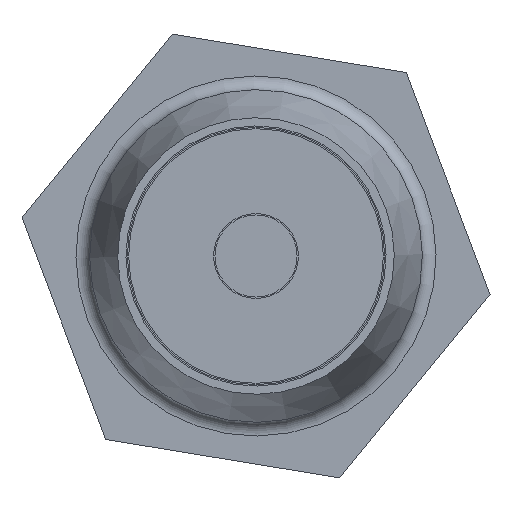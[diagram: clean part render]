
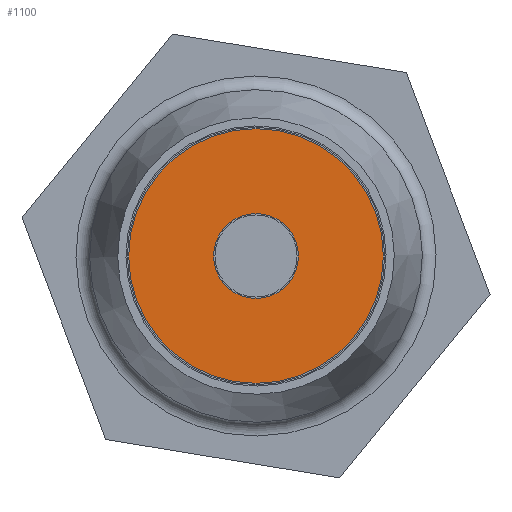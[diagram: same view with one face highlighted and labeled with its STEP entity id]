
A CAD part, left-side view. The second image highlights one B-rep face of the part: STEP entity #1100.
In plain terms, the highlighted planar face has unit normal (-1, 0, 0).
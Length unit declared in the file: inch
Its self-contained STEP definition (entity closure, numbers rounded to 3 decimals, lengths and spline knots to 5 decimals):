
#230=FACE_BOUND('',#348,.T.);
#270=FACE_OUTER_BOUND('',#347,.T.);
#347=EDGE_LOOP('',(#778));
#348=EDGE_LOOP('',(#779));
#463=CIRCLE('',#1181,0.093);
#464=CIRCLE('',#1182,0.031);
#530=VERTEX_POINT('',#1673);
#531=VERTEX_POINT('',#1675);
#637=EDGE_CURVE('',#530,#530,#463,.T.);
#638=EDGE_CURVE('',#531,#531,#464,.T.);
#778=ORIENTED_EDGE('',*,*,#637,.F.);
#779=ORIENTED_EDGE('',*,*,#638,.T.);
#1059=PLANE('',#1180);
#1100=ADVANCED_FACE('',(#270,#230),#1059,.T.);
#1180=AXIS2_PLACEMENT_3D('',#1672,#1328,#1329);
#1181=AXIS2_PLACEMENT_3D('',#1674,#1330,#1331);
#1182=AXIS2_PLACEMENT_3D('',#1676,#1332,#1333);
#1328=DIRECTION('center_axis',(-1.,0.,0.));
#1329=DIRECTION('ref_axis',(0.,0.,1.));
#1330=DIRECTION('center_axis',(1.,0.,0.));
#1331=DIRECTION('ref_axis',(0.,0.,
-1.));
#1332=DIRECTION('center_axis',(1.,0.,0.));
#1333=DIRECTION('ref_axis',(0.,0.,
-1.));
#1672=CARTESIAN_POINT('Origin',(-0.55139,-0.17764,0.02629));
#1673=CARTESIAN_POINT('',(-0.55139,-0.17764,0.02629));
#1674=CARTESIAN_POINT('Origin',(-0.55139,-0.27064,0.02629));
#1675=CARTESIAN_POINT('',(-0.55139,-0.23964,0.02629));
#1676=CARTESIAN_POINT('Origin',(-0.55139,-0.27064,0.02629));
